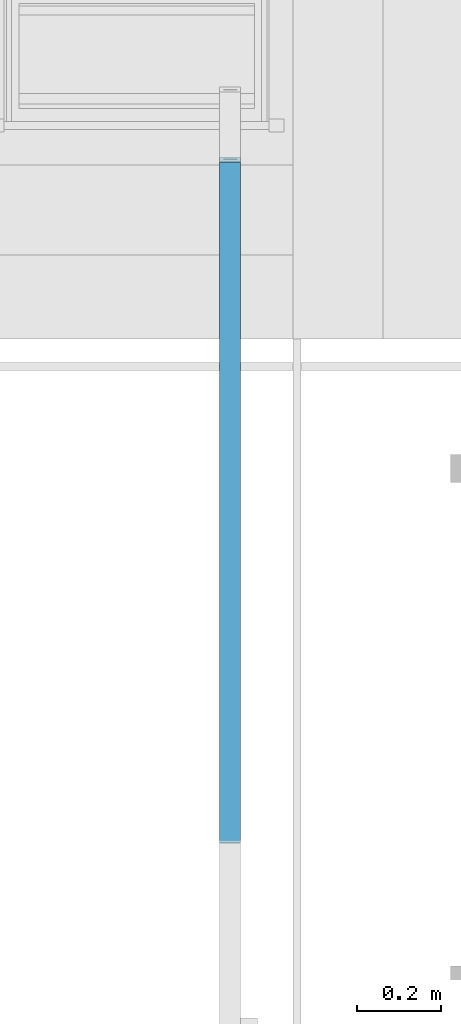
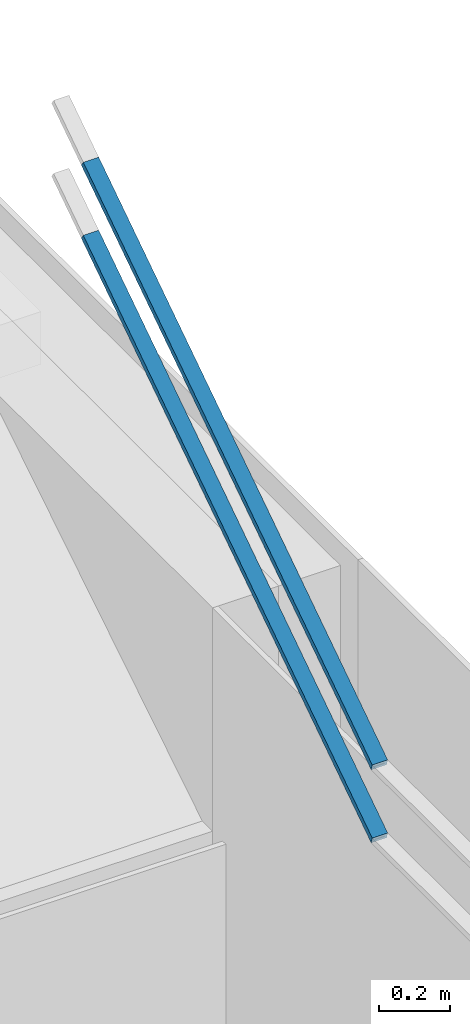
# One storey, part 8 of 167: 2 members, 2 elements without a shape of their own.
"""IFC2X3 building model written with IfcOpenShell, lengths in millimetres."""

from ifc_helpers import new_model, entity, si_unit, converted_unit, derived_unit, money_unit, direction, frame, origin_with_axes, place, context, subcontext, project, spatial, faceted_brep, material, type_object, element, aggregate, save


model = new_model("IFC2X3")

# Units and contexts
model_context = context("Model", 3, precision=0.01, world=origin_with_axes(), true_north=direction((0.0, 1.0)))
plan_context = context("Plan", 3, precision=0.01, world=origin_with_axes(), true_north=direction((0.0, 1.0)))
body_context = subcontext(model_context, "Body", "Model", "MODEL_VIEW")
ifc_project = project(units=[si_unit("LENGTHUNIT", "METRE", prefix="MILLI"), si_unit("AREAUNIT", "SQUARE_METRE"), si_unit("VOLUMEUNIT", "CUBIC_METRE"), converted_unit("PLANEANGLEUNIT", "DEGREE", entity("IfcPlaneAngleMeasure", 0.0174532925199), si_unit("PLANEANGLEUNIT", "RADIAN"), dimensions=[0, 0, 0, 0, 0, 0, 0]), si_unit("SOLIDANGLEUNIT", "STERADIAN"), money_unit("EUR"), converted_unit("TIMEUNIT", "Year", entity("IfcTimeMeasure", 31556926.0), si_unit("TIMEUNIT", "SECOND"), dimensions=[0, 0, 1, 0, 0, 0, 0]), si_unit("MASSUNIT", "GRAM", prefix="KILO"), si_unit("THERMODYNAMICTEMPERATUREUNIT", "DEGREE_CELSIUS"), si_unit("LUMINOUSINTENSITYUNIT", "LUMEN"), si_unit("ENERGYUNIT", "JOULE", prefix="MEGA"), derived_unit("THERMALCONDUCTANCEUNIT", [(si_unit("POWERUNIT", "WATT"), 1), (si_unit("LENGTHUNIT", "METRE"), -1), (si_unit("THERMODYNAMICTEMPERATUREUNIT", "KELVIN"), -1)]), derived_unit("SPECIFICHEATCAPACITYUNIT", [(si_unit("ENERGYUNIT", "JOULE"), 1), (si_unit("MASSUNIT", "GRAM", prefix="KILO"), -1), (si_unit("THERMODYNAMICTEMPERATUREUNIT", "KELVIN"), -1)]), derived_unit("MASSDENSITYUNIT", [(si_unit("MASSUNIT", "GRAM", prefix="KILO"), 1), (si_unit("VOLUMEUNIT", "CUBIC_METRE"), -1)])], contexts=[model_context, plan_context])

# Site, building, storey
site_placement = place(None, origin_with_axes())
site = spatial("IfcSite", under=ifc_project, at=site_placement, Name="Site", CompositionType="ELEMENT")
building_placement = place(site_placement, origin_with_axes())
building = spatial("IfcBuilding", under=site, at=building_placement, Name="Naam gebouw", CompositionType="ELEMENT")
storey_placement = place(building_placement, origin_with_axes())
storey = spatial("IfcBuildingStorey", under=building, at=storey_placement, Name="Begane grond", CompositionType="ELEMENT", Elevation=0.0)

# Railing, member
railing_type = type_object("IfcRailingType", Name="Railing Type", PredefinedType="NOTDEFINED")
railing_1_placement = place(storey_placement, frame((42986.011491, 28357.8807857, 360.0), z_axis=(0.0, 0.0, 1.0), x_axis=(1.0, 0.0, 0.0)))
railing_1 = element("IfcRailing", 1, at=railing_1_placement, inside=storey, type_object=railing_type, Name="34_Reling_Reling-x", PredefinedType="NOTDEFINED")
ifc_material = material(Name="Metaal - RVS")
member_type = type_object("IfcMemberType", Name="IfcMember", PredefinedType="USERDEFINED")
member_1_placement = place(railing_1_placement, frame((-149.997343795, 540.024295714, 3387.98437881), z_axis=(0.0, 0.0, 1.0), x_axis=(1.0, 0.0, 0.0)))
member_1 = element("IfcMember", 2, at=member_1_placement, type_object=member_type, material=ifc_material, Name="_Reling - regel_Handregel-x", context=body_context, shape_type="Brep", body=[
    faceted_brep([(24.9954788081, -810.035341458, 32.0156211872), (24.9955160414, -803.980047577, 12.0156211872), (25.00458311, 821.128718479, 1095.37439288), (-25.0045211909, -810.035034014, 32.0156211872), (-25.0044839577, -803.979740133, 12.0156211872), (15.9954955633, -807.310403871, 23.0156211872), (15.9954992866, -806.704874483, 21.0156211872), (-16.0045007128, -806.704677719, 21.0156211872), (-16.0045044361, -807.310207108, 23.0156211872), (-24.9954168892, 821.128997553, 1095.37439288), (25.004521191, 810.035048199, 1112.01562119), (-24.9954788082, 810.035327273, 1112.01562119), (16.0045490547, 815.027250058, 1104.52706845), (16.0045552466, 816.136617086, 1102.86294562), (-15.9954447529, 816.136795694, 1102.86294562), (-15.9954509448, 815.027428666, 1104.52706845)], [[[0, 1, 2]], [[0, 3, 4, 1], [5, 6, 7, 8]], [[1, 9, 2]], [[0, 2, 10]], [[3, 0, 10]], [[4, 3, 11]], [[1, 4, 9]], [[6, 5, 12, 13]], [[7, 6, 13]], [[8, 7, 14, 15]], [[5, 8, 15]], [[10, 2, 9, 11], [12, 15, 14, 13]], [[3, 10, 11]], [[4, 11, 9]], [[5, 15, 12]], [[7, 13, 14]]]),
])
aggregate(railing_1, [member_1])

railing_2_placement = place(storey_placement, frame((42986.011491, 28357.8807857, 360.0), z_axis=(0.0, 0.0, 1.0), x_axis=(1.0, 0.0, 0.0)))
railing_2 = element("IfcRailing", 3, at=railing_2_placement, inside=storey, type_object=railing_type, Name="34_Reling_Reling-x", PredefinedType="NOTDEFINED")
member_2_placement = place(railing_2_placement, frame((-149.997455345, 540.024316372, 3137.98437881), z_axis=(0.0, 0.0, 1.0), x_axis=(1.0, 0.0, 0.0)))
member_2 = element("IfcMember", 4, at=member_2_placement, type_object=member_type, material=ifc_material, Name="_Reling - regel_Handregel-x", context=body_context, shape_type="Brep", body=[
    faceted_brep([(24.995367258, -810.035340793, 32.0156211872), (24.9954043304, -803.980046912, 12.0156211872), (25.0046961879, 821.128715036, 1095.37439288), (25.0046327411, 810.035044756, 1112.01562119), (-25.0046327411, -810.035034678, 32.0156211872), (-25.0045956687, -803.979740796, 12.0156211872), (15.9953839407, -807.310403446, 23.0156211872), (15.995387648, -806.704874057, 21.0156211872), (-16.0046123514, -806.704678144, 21.0156211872), (-16.0046160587, -807.310207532, 23.0156211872), (-24.9953038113, 821.129000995, 1095.37439288), (-24.9953672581, 810.035330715, 1112.01562119), (16.0046612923, 815.027247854, 1104.52706845), (-15.9953387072, 815.027430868, 1104.52706845), (-15.9953323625, 816.136797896, 1102.86294562), (16.004667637, 816.136614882, 1102.86294562)], [[[0, 1, 2, 3]], [[0, 4, 5, 1], [6, 7, 8, 9]], [[1, 10, 2]], [[3, 2, 10, 11], [12, 13, 14, 15]], [[4, 0, 3]], [[5, 4, 11, 10]], [[1, 5, 10]], [[7, 6, 12, 15]], [[8, 7, 15]], [[9, 8, 14, 13]], [[6, 9, 13]], [[4, 3, 11]], [[6, 13, 12]], [[8, 15, 14]]]),
])
aggregate(railing_2, [member_2])

save(model, "model.ifc")
